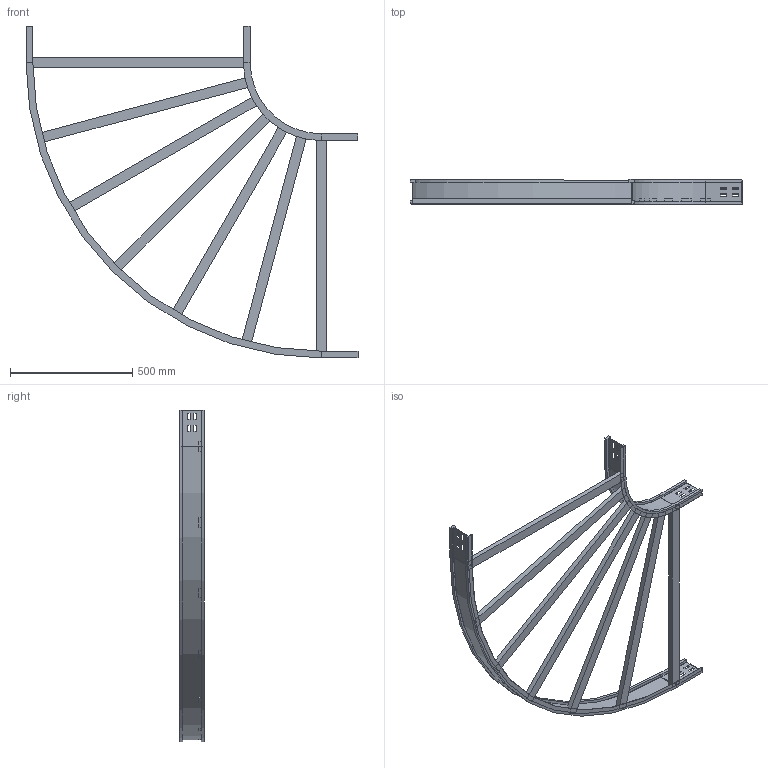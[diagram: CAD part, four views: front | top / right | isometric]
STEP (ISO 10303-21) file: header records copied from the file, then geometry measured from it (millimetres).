
FILE_DESCRIPTION (( 'STEP AP214' ), '1' );
FILE_NAME ('10S3D900.step', '2025-02-21T16:09:16', ( '' ), ( '' ), 'SwSTEP 2.0', 'SolidWorks 2023', '' );
FILE_SCHEMA (( 'AUTOMOTIVE_DESIGN' ));
Length unit declared in the file: millimetre
Products named in the file (4): 10S3D900; LONGH.INTERNO 90°_H100_R300; TRAVERSINO_900; LONGH.ESTERNO 90°_H100_R300+900
Assembly tree (9 placements, depth 2):
  10S3D900
    LONGH.INTERNO 90°_H100_R300
    LONGH.ESTERNO 90°_H100_R300+900
    TRAVERSINO_900  x7
Bounding box: 1359 x 100 x 1359 mm (x, y, z)
Volume: 6648112.1 mm3; surface area: 1645641.8 mm2
Topology: 9 solids, 9 shells, 182 faces, 444 edges, 280 vertices
Faces by surface type: plane 170, cylinder 12
Entity records: 4509 total; most frequent: CARTESIAN_POINT 762, ORIENTED_EDGE 744, DIRECTION 712, EDGE_CURVE 372, LINE 348, VECTOR 348, VERTEX_POINT 232, AXIS2_PLACEMENT_3D 182
